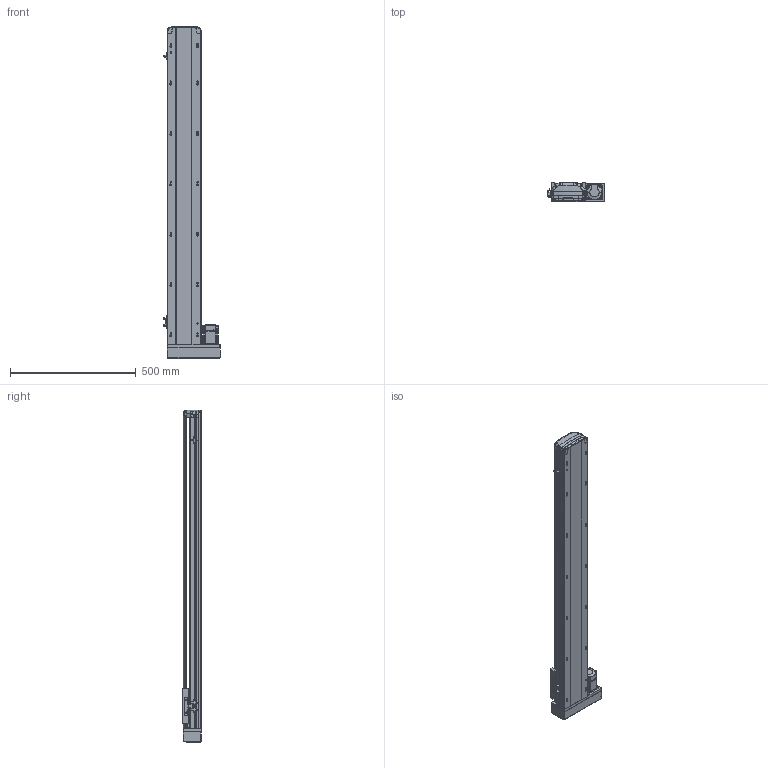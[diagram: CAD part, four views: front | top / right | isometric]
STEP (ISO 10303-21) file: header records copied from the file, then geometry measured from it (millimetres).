
FILE_DESCRIPTION (( 'STEP AP214' ), '1' );
FILE_NAME ('RTH14-XX-1050-R-M20-C4.STEP', '2025-10-24T09:58:29', ( 'Microsoft' ), ( 'Microsoft' ), 'SwSTEP 2.0', 'SolidWorks 2018', '' );
FILE_SCHEMA (( 'AUTOMOTIVE_DESIGN' ));
Length unit declared in the file: millimetre
Products named in the file (10): N_RTH13-L-008-P20 萇儂啣酘蛌殏^RTH14-XX-XX-R-M20-C4; N_RTH14-R-004-SFSR16賑釱^RTH14-XX-XX-R-M20-C4; N_RTH14-GY-001P^RTH14-XX-XX-R-M20-C4; N_RTH13-L-018 裔赽^RTH14-XX-XX-R-M20-C4; N_RTH13-L-012感应片（外置）^RTH14-XX-XX-R-M20-C4; RTH14-XX-1050-R-M20-C4; N_MSMD022P1AA_200W^RTH14-XX-XX-R-M20-C4; N_OMRON EE-SX672 传感器^RTH14-XX-XX-R-M20-C4; N_RTH14-M-011P菁釱^RTH14-XX-XX-R-M20-C4; N_RTH14-M-007P奻裔^RTH14-XX-XX-R-M20-C4
Assembly tree (11 placements, depth 2):
  RTH14-XX-1050-R-M20-C4
    N_RTH14-M-011P菁釱^RTH14-XX-XX-R-M20-C4
    N_RTH14-M-007P奻裔^RTH14-XX-XX-R-M20-C4
    N_MSMD022P1AA_200W^RTH14-XX-XX-R-M20-C4
    N_RTH13-L-008-P20 萇儂啣酘蛌殏^RTH14-XX-XX-R-M20-C4
    N_RTH13-L-018 裔赽^RTH14-XX-XX-R-M20-C4
    N_RTH13-L-012感应片（外置）^RTH14-XX-XX-R-M20-C4
    N_OMRON EE-SX672 传感器^RTH14-XX-XX-R-M20-C4  x3
    N_RTH14-R-004-SFSR16賑釱^RTH14-XX-XX-R-M20-C4
    N_RTH14-GY-001P^RTH14-XX-XX-R-M20-C4
Bounding box: 224 x 78.03 x 1317.73 mm (x, y, z)
Volume: 5617720.4 mm3; surface area: 1303884.6 mm2
Topology: 10 solids, 12 shells, 1897 faces, 5314 edges, 3485 vertices
Faces by surface type: plane 993, cylinder 509, bspline 346, cone 45, torus 4
Entity records: 58229 total; most frequent: CARTESIAN_POINT 23361, ORIENTED_EDGE 7685, DIRECTION 6208, EDGE_CURVE 3848, VERTEX_POINT 2521, VECTOR 2182, LINE 2182, AXIS2_PLACEMENT_3D 2013
